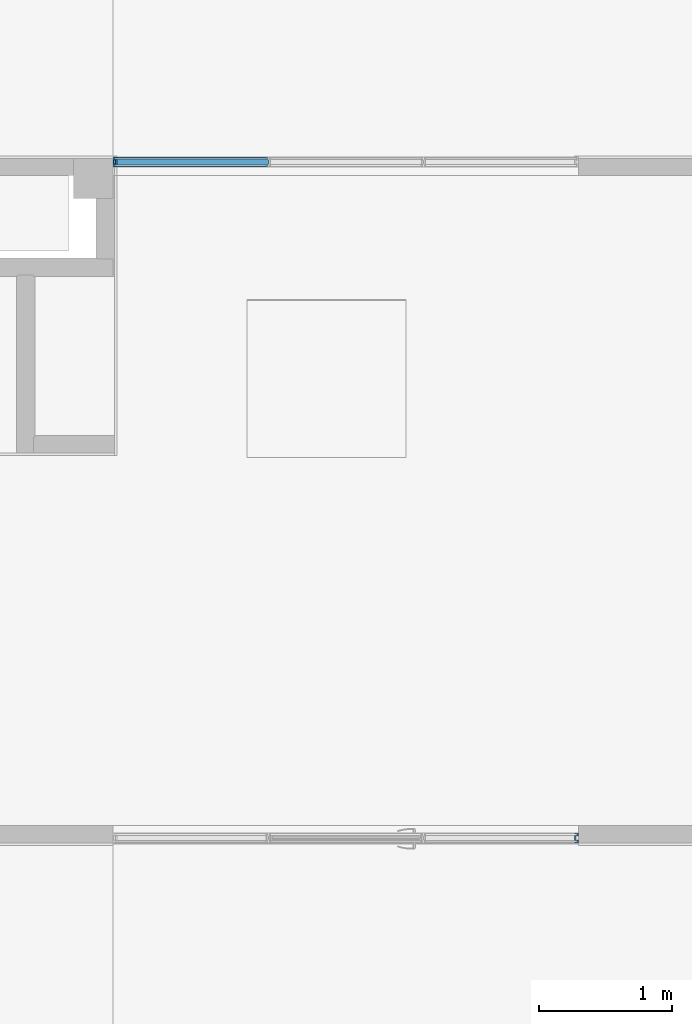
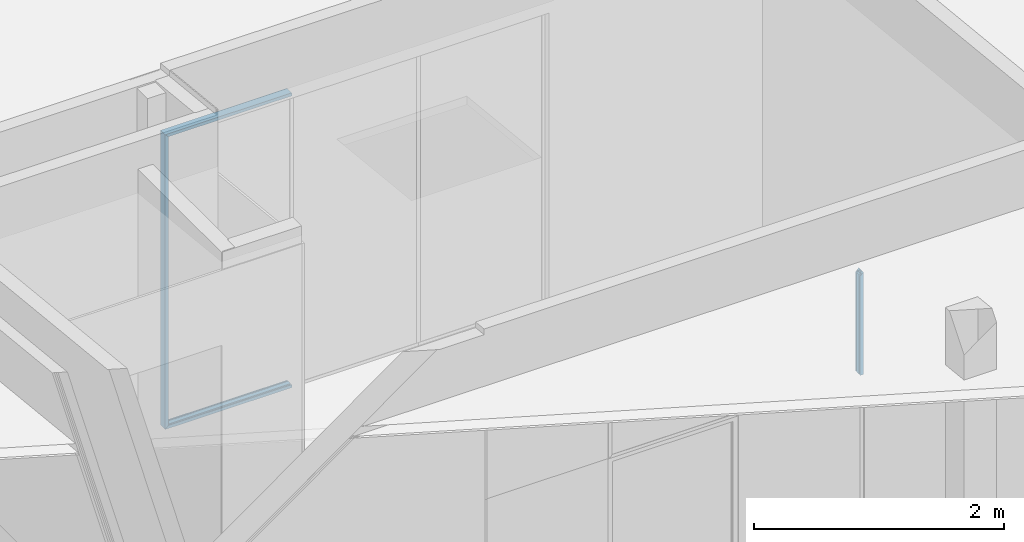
# One storey, part 16 of 43: 4 members, 2 elements without a shape of their own.
"""IFC2X3 building model written with IfcOpenShell, lengths in millimetres."""

from ifc_helpers import new_model, entity, si_unit, converted_unit, derived_unit, money_unit, direction, frame, origin_with_axes, place, context, subcontext, project, spatial, faceted_brep, material, material_list, type_object, element, aggregate, save


model = new_model("IFC2X3")

# Units and contexts
model_context = context("Model", 3, precision=0.01, world=origin_with_axes(), true_north=direction((0.0, 1.0)))
body_context = subcontext(model_context, "Body", "Model", "MODEL_VIEW")
ifc_project = project(units=[si_unit("LENGTHUNIT", "METRE", prefix="MILLI"), si_unit("AREAUNIT", "SQUARE_METRE"), si_unit("VOLUMEUNIT", "CUBIC_METRE"), converted_unit("PLANEANGLEUNIT", "DEGREE", entity("IfcPlaneAngleMeasure", 0.0174532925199), si_unit("PLANEANGLEUNIT", "RADIAN"), dimensions=[0, 0, 0, 0, 0, 0, 0]), si_unit("SOLIDANGLEUNIT", "STERADIAN"), money_unit("EUR"), converted_unit("TIMEUNIT", "Year", entity("IfcTimeMeasure", 31556926.0), si_unit("TIMEUNIT", "SECOND"), dimensions=[0, 0, 1, 0, 0, 0, 0]), si_unit("MASSUNIT", "GRAM", prefix="KILO"), si_unit("THERMODYNAMICTEMPERATUREUNIT", "DEGREE_CELSIUS"), si_unit("LUMINOUSINTENSITYUNIT", "LUMEN"), si_unit("ENERGYUNIT", "JOULE", prefix="MEGA"), derived_unit("THERMALCONDUCTANCEUNIT", [(si_unit("POWERUNIT", "WATT"), 1), (si_unit("LENGTHUNIT", "METRE"), -1), (si_unit("THERMODYNAMICTEMPERATUREUNIT", "KELVIN"), -1)]), derived_unit("SPECIFICHEATCAPACITYUNIT", [(si_unit("ENERGYUNIT", "JOULE"), 1), (si_unit("MASSUNIT", "GRAM", prefix="KILO"), -1), (si_unit("THERMODYNAMICTEMPERATUREUNIT", "KELVIN"), -1)]), derived_unit("MASSDENSITYUNIT", [(si_unit("MASSUNIT", "GRAM", prefix="KILO"), 1), (si_unit("VOLUMEUNIT", "CUBIC_METRE"), -1)])], contexts=[model_context])

# Site, building, storey
site_placement = place(None, origin_with_axes())
site = spatial("IfcSite", under=ifc_project, at=site_placement, Name="L.Koidula tn 11b", CompositionType="ELEMENT")
building_placement = place(site_placement, origin_with_axes())
building = spatial("IfcBuilding", under=site, at=building_placement, Name="Rakvere Riigigümnaasium", CompositionType="ELEMENT")
storey_placement = place(building_placement, frame((0.0, 0.0, 6665.0), z_axis=(0.0, 0.0, 1.0), x_axis=(1.0, 0.0, 0.0)))
storey = spatial("IfcBuildingStorey", under=building, at=storey_placement, Name="3.korrus +6,66", CompositionType="ELEMENT", Elevation=6665.0)

# Curtain wall, member
curtain_wall_type = type_object("IfcCurtainWallType", Name="Curtain Wall Type", PredefinedType="NOTDEFINED")
curtain_wall_1_placement = place(storey_placement, frame((58878.6347232, 19272.4397072, 0.0), z_axis=(0.0, 0.0, 1.0), x_axis=(1.0, 0.0, 0.0)))
curtain_wall_1 = element("IfcCurtainWall", 1, at=curtain_wall_1_placement, inside=storey, type_object=curtain_wall_type, Name="SKLF-29")
ifc_material_1 = material(Name="Klaasvill")
ifc_material_2 = material(Name="Teras RAL7012")
ifc_material_list = material_list([ifc_material_1, ifc_material_2])
member_type = type_object("IfcMemberType", Name="Boundary Frame 30 x 42", PredefinedType="MULLION")
member_1_placement = place(curtain_wall_1_placement, frame((2811.38617338, 0.0, 2400.0), z_axis=(-3.20375619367e-08, 0.0, 1.0), x_axis=(-1.0, 0.0, -3.20375619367e-08)))
member_1 = element("IfcMember", 2, at=member_1_placement, type_object=member_type, material=ifc_material_list, Name="SKLF-31-raam", ObjectType="MULLION", context=body_context, shape_type="Brep", body=[
    faceted_brep([(7.49999990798, 15.000000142, -4.4539469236e-07), (13.8499999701, 15.000000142, -4.4539469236e-07), (13.8499999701, 15.000000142, 986.150000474), (7.49999990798, 15.000000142, 992.500000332), (7.49999990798, 29.0161444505, -4.4539469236e-07), (13.8499999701, 29.0161444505, -4.4539469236e-07), (13.8499999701, 29.0161444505, 986.150000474), (7.49999990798, 29.0161444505, 992.500000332)], [[[0, 1, 2, 3]], [[0, 4, 5, 1]], [[1, 5, 6, 2]], [[3, 2, 6, 7]], [[4, 0, 3, 7]], [[5, 4, 7, 6]]]),
    faceted_brep([(24.987414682, 29.0161444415, -4.4539469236e-07), (25.004489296, 27.0307503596, -4.4539469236e-07), (25.004489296, 27.0307503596, 974.995511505), (24.987414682, 29.0161444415, 975.012586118), (28.5126239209, 29.0161444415, -4.4539469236e-07), (28.7655837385, 28.0385325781, -4.4539469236e-07), (28.4955493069, 27.0307503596, -4.4539469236e-07), (27.75780152, 26.2930025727, -4.4539469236e-07), (26.7500193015, 26.0229681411, -4.4539469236e-07), (25.742237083, 26.2930025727, -4.4539469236e-07), (25.742237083, 26.2930025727, 974.257763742), (26.7500193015, 26.0229681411, 973.249981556), (27.75780152, 26.2930025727, 972.242199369), (28.4955493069, 27.0307503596, 971.504451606), (28.7655837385, 28.0385325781, 971.234417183), (28.5126239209, 29.0161444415, 971.487376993)], [[[0, 1, 2, 3]], [[0, 4, 5, 6, 7, 8, 9, 1]], [[1, 9, 10, 2]], [[3, 2, 10, 11, 12, 13, 14, 15]], [[4, 0, 3, 15]], [[5, 4, 15, 14]], [[6, 5, 14, 13]], [[7, 6, 13, 12]], [[8, 7, 12, 11]], [[9, 8, 11, 10]]]),
    faceted_brep([(7.49999990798, -24.9999997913, -4.4539469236e-07), (7.49999990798, -39.0161445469, -4.4539469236e-07), (7.49999990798, -39.0161445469, 992.500000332), (7.49999990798, -24.9999997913, 992.500000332), (13.8499999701, -24.9999997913, -4.4539469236e-07), (13.8499999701, -39.0161445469, -4.4539469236e-07), (13.8499999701, -39.0161445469, 986.150000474), (13.8499999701, -24.9999997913, 986.150000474)], [[[0, 1, 2, 3]], [[0, 4, 5, 1]], [[1, 5, 6, 2]], [[3, 2, 6, 7]], [[4, 0, 3, 7]], [[5, 4, 7, 6]]]),
    faceted_brep([(25.004489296, -37.0307503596, -4.4539469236e-07), (24.987414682, -39.0161444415, -4.4539469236e-07), (24.987414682, -39.0161444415, 975.012586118), (25.004489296, -37.0307503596, 974.995511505), (25.742237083, -36.2930025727, -4.4539469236e-07), (26.7500193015, -36.0229681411, -4.4539469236e-07), (27.75780152, -36.2930025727, -4.4539469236e-07), (28.4955493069, -37.0307503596, -4.4539469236e-07), (28.7655837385, -38.0385325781, -4.4539469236e-07), (28.5126239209, -39.0161444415, -4.4539469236e-07), (28.5126239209, -39.0161444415, 971.487376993), (28.7655837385, -38.0385325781, 971.234417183), (28.4955493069, -37.0307503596, 971.504451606), (27.75780152, -36.2930025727, 972.242199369), (26.7500193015, -36.0229681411, 973.249981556), (25.742237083, -36.2930025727, 974.257763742)], [[[0, 1, 2, 3]], [[0, 4, 5, 6, 7, 8, 9, 1]], [[1, 9, 10, 2]], [[3, 2, 10, 11, 12, 13, 14, 15]], [[4, 0, 3, 15]], [[5, 4, 15, 14]], [[6, 5, 14, 13]], [[7, 6, 13, 12]], [[8, 7, 12, 11]], [[9, 8, 11, 10]]]),
    faceted_brep([(0.0, -22.0000000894, -4.4539469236e-07), (29.5999996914, -22.0000000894, -4.4539469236e-07), (29.5999996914, -22.0000000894, 970.400001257), (0.0, -22.0000000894, 1000.0), (0.0, 12.0000000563, -4.4539469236e-07), (29.5999996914, 12.0000000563, -4.4539469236e-07), (1.9999999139, 10.0000001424, -4.4539469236e-07), (1.9999999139, -20.0000001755, -4.4539469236e-07), (18.7999996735, -20.0000001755, -4.4539469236e-07), (18.7999996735, 10.0000001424, -4.4539469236e-07), (29.5999996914, 12.0000000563, 970.400001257), (0.0, 12.0000000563, 1000.0), (1.9999999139, 10.0000001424, 998.00000015), (18.7999996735, 10.0000001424, 981.200000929), (18.7999996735, -20.0000001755, 981.200000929), (1.9999999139, -20.0000001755, 998.00000015)], [[[0, 1, 2, 3]], [[0, 4, 5, 1], [6, 7, 8, 9]], [[1, 5, 10, 2]], [[3, 2, 10, 11], [12, 13, 14, 15]], [[4, 0, 3, 11]], [[5, 4, 11, 10]], [[7, 6, 12, 15]], [[8, 7, 15, 14]], [[9, 8, 14, 13]], [[6, 9, 13, 12]]]),
    faceted_brep([(0.0, 12.0, -4.4539469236e-07), (29.5999996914, 12.0000000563, -4.4539469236e-07), (29.5999996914, 12.0000000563, 970.400001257), (0.0, 12.0, 1000.0), (0.0, 32.0, -4.4539469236e-07), (30.0000193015, 32.0, -4.4539469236e-07), (30.0000193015, 29.0161444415, -4.4539469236e-07), (28.5126239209, 29.0161444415, -4.4539469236e-07), (24.987414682, 29.0161444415, -4.4539469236e-07), (13.8499999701, 29.0161444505, -4.4539469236e-07), (7.49999999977, 29.0161444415, -4.4539469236e-07), (7.49999999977, 15.0, -4.4539469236e-07), (13.8499999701, 15.000000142, -4.4539469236e-07), (30.0000193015, 15.0, -4.4539469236e-07), (30.0000193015, 12.0, -4.4539469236e-07), (30.0000193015, 12.0, 969.99998166), (30.0000193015, 15.0, 969.99998166), (13.8499999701, 15.000000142, 986.150000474), (7.49999999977, 15.0, 992.500000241), (7.49999999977, 29.0161444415, 992.500000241), (13.8499999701, 29.0161444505, 986.150000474), (24.987414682, 29.0161444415, 975.012586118), (28.5126239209, 29.0161444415, 971.487376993), (30.0000193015, 29.0161444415, 969.99998166), (30.0000193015, 32.0, 969.99998166), (0.0, 32.0, 1000.0)], [[[0, 1, 2, 3]], [[0, 4, 5, 6, 7, 8, 9, 10, 11, 12, 13, 14, 1]], [[1, 14, 15, 2]], [[3, 2, 15, 16, 17, 18, 19, 20, 21, 22, 23, 24, 25]], [[4, 0, 3, 25]], [[5, 4, 25, 24]], [[6, 5, 24, 23]], [[7, 6, 23, 22]], [[8, 7, 22, 21]], [[9, 8, 21, 20]], [[10, 9, 20, 19]], [[11, 10, 19, 18]], [[12, 11, 18, 17]], [[13, 12, 17, 16]], [[14, 13, 16, 15]]]),
    faceted_brep([(0.0, -22.0, -4.4539469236e-07), (0.0, -42.0, -4.4539469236e-07), (0.0, -42.0, 1000.0), (0.0, -22.0, 1000.0), (29.5999996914, -22.0000000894, -4.4539469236e-07), (30.0000193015, -22.0, -4.4539469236e-07), (30.0000193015, -25.0, -4.4539469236e-07), (13.8499999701, -24.9999997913, -4.4539469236e-07), (7.49999999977, -25.0, -4.4539469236e-07), (7.49999999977, -39.0161444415, -4.4539469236e-07), (13.8499999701, -39.0161445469, -4.4539469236e-07), (24.987414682, -39.0161444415, -4.4539469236e-07), (28.5126239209, -39.0161444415, -4.4539469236e-07), (30.0000193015, -39.0161444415, -4.4539469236e-07), (30.0000193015, -42.0, -4.4539469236e-07), (30.0000193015, -42.0, 969.99998166), (30.0000193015, -39.0161444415, 969.99998166), (28.5126239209, -39.0161444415, 971.487376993), (24.987414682, -39.0161444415, 975.012586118), (13.8499999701, -39.0161445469, 986.150000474), (7.49999999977, -39.0161444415, 992.500000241), (7.49999999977, -25.0, 992.500000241), (13.8499999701, -24.9999997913, 986.150000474), (30.0000193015, -25.0, 969.99998166), (30.0000193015, -22.0, 969.99998166), (29.5999996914, -22.0000000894, 970.400001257)], [[[0, 1, 2, 3]], [[0, 4, 5, 6, 7, 8, 9, 10, 11, 12, 13, 14, 1]], [[1, 14, 15, 2]], [[3, 2, 15, 16, 17, 18, 19, 20, 21, 22, 23, 24, 25]], [[4, 0, 3, 25]], [[5, 4, 25, 24]], [[6, 5, 24, 23]], [[7, 6, 23, 22]], [[8, 7, 22, 21]], [[9, 8, 21, 20]], [[10, 9, 20, 19]], [[11, 10, 19, 18]], [[12, 11, 18, 17]], [[13, 12, 17, 16]], [[14, 13, 16, 15]]]),
])
aggregate(curtain_wall_1, [member_1])

# Curtain wall, members
curtain_wall_2_placement = place(storey_placement, frame((61105.020931, 24378.4555472, 0.0), z_axis=(0.0, 0.0, 1.0), x_axis=(1.0, 0.0, 0.0)))
curtain_wall_2 = element("IfcCurtainWall", 3, at=curtain_wall_2_placement, inside=storey, type_object=curtain_wall_type, Name="SKLF-28")
member_2_placement = place(curtain_wall_2_placement, frame((-1755.0, 0.0, 0.0), z_axis=(-1.0, 0.0, 0.0), x_axis=(0.0, 0.0, 1.0)))
member_2 = element("IfcMember", 4, at=member_2_placement, type_object=member_type, material=ifc_material_list, Name="SKLF-74-raam", ObjectType="MULLION", context=body_context, shape_type="Brep", body=[
    faceted_brep([(7.49999990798, 15.000000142, 0.0), (13.8499999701, 15.000000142, 0.0), (13.8499999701, 15.000000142, 1156.15000003), (7.49999990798, 15.000000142, 1162.50000009), (7.49999990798, 29.0161444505, 0.0), (13.8499999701, 29.0161444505, 0.0), (13.8499999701, 29.0161444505, 1156.15000003), (7.49999990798, 29.0161444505, 1162.50000009)], [[[0, 1, 2, 3]], [[0, 4, 5, 1]], [[1, 5, 6, 2]], [[3, 2, 6, 7]], [[4, 0, 3, 7]], [[5, 4, 7, 6]]]),
    faceted_brep([(24.987414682, 29.0161444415, 0.0), (25.004489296, 27.0307503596, 0.0), (25.004489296, 27.0307503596, 1144.9955107), (24.987414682, 29.0161444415, 1145.01258532), (28.5126239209, 29.0161444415, 0.0), (28.7655837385, 28.0385325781, 0.0), (28.4955493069, 27.0307503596, 0.0), (27.75780152, 26.2930025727, 0.0), (26.7500193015, 26.0229681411, 0.0), (25.742237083, 26.2930025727, 0.0), (25.742237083, 26.2930025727, 1144.25776292), (26.7500193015, 26.0229681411, 1143.2499807), (27.75780152, 26.2930025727, 1142.24219848), (28.4955493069, 27.0307503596, 1141.50445069), (28.7655837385, 28.0385325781, 1141.23441626), (28.5126239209, 29.0161444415, 1141.48737608)], [[[0, 1, 2, 3]], [[0, 4, 5, 6, 7, 8, 9, 1]], [[1, 9, 10, 2]], [[3, 2, 10, 11, 12, 13, 14, 15]], [[4, 0, 3, 15]], [[5, 4, 15, 14]], [[6, 5, 14, 13]], [[7, 6, 13, 12]], [[8, 7, 12, 11]], [[9, 8, 11, 10]]]),
    faceted_brep([(7.49999990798, -24.9999997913, 0.0), (7.49999990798, -39.0161445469, 0.0), (7.49999990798, -39.0161445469, 1162.50000009), (7.49999990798, -24.9999997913, 1162.50000009), (13.8499999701, -24.9999997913, 0.0), (13.8499999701, -39.0161445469, 0.0), (13.8499999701, -39.0161445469, 1156.15000003), (13.8499999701, -24.9999997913, 1156.15000003)], [[[0, 1, 2, 3]], [[0, 4, 5, 1]], [[1, 5, 6, 2]], [[3, 2, 6, 7]], [[4, 0, 3, 7]], [[5, 4, 7, 6]]]),
    faceted_brep([(25.004489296, -37.0307503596, 0.0), (24.987414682, -39.0161444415, 0.0), (24.987414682, -39.0161444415, 1145.01258532), (25.004489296, -37.0307503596, 1144.9955107), (25.742237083, -36.2930025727, 0.0), (26.7500193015, -36.0229681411, 0.0), (27.75780152, -36.2930025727, 0.0), (28.4955493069, -37.0307503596, 0.0), (28.7655837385, -38.0385325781, 0.0), (28.5126239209, -39.0161444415, 0.0), (28.5126239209, -39.0161444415, 1141.48737608), (28.7655837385, -38.0385325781, 1141.23441626), (28.4955493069, -37.0307503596, 1141.50445069), (27.75780152, -36.2930025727, 1142.24219848), (26.7500193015, -36.0229681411, 1143.2499807), (25.742237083, -36.2930025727, 1144.25776292)], [[[0, 1, 2, 3]], [[0, 4, 5, 6, 7, 8, 9, 1]], [[1, 9, 10, 2]], [[3, 2, 10, 11, 12, 13, 14, 15]], [[4, 0, 3, 15]], [[5, 4, 15, 14]], [[6, 5, 14, 13]], [[7, 6, 13, 12]], [[8, 7, 12, 11]], [[9, 8, 11, 10]]]),
    faceted_brep([(0.0, -22.0000000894, 0.0), (29.5999996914, -22.0000000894, 0.0), (29.5999996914, -22.0000000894, 1140.40000031), (0.0, -22.0000000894, 1170.0), (0.0, 12.0000000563, 0.0), (29.5999996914, 12.0000000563, 0.0), (1.9999999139, 10.0000001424, 0.0), (1.9999999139, -20.0000001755, 0.0), (18.7999996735, -20.0000001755, 0.0), (18.7999996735, 10.0000001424, 0.0), (29.5999996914, 12.0000000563, 1140.40000031), (0.0, 12.0000000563, 1170.0), (1.9999999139, 10.0000001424, 1168.00000009), (18.7999996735, 10.0000001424, 1151.20000033), (18.7999996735, -20.0000001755, 1151.20000033), (1.9999999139, -20.0000001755, 1168.00000009)], [[[0, 1, 2, 3]], [[0, 4, 5, 1], [6, 7, 8, 9]], [[1, 5, 10, 2]], [[3, 2, 10, 11], [12, 13, 14, 15]], [[4, 0, 3, 11]], [[5, 4, 11, 10]], [[7, 6, 12, 15]], [[8, 7, 15, 14]], [[9, 8, 14, 13]], [[6, 9, 13, 12]]]),
    faceted_brep([(0.0, 12.0, 0.0), (29.5999996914, 12.0000000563, 0.0), (29.5999996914, 12.0000000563, 1140.40000031), (0.0, 12.0, 1170.0), (0.0, 32.0, 0.0), (30.0000193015, 32.0, 0.0), (30.0000193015, 29.0161444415, 0.0), (28.5126239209, 29.0161444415, 0.0), (24.987414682, 29.0161444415, 0.0), (13.8499999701, 29.0161444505, 0.0), (7.49999999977, 29.0161444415, 0.0), (7.49999999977, 15.0, 0.0), (13.8499999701, 15.000000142, 0.0), (30.0000193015, 15.0, 0.0), (30.0000193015, 12.0, 0.0), (30.0000193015, 12.0, 1139.9999807), (30.0000193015, 15.0, 1139.9999807), (13.8499999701, 15.000000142, 1156.15000003), (7.49999999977, 15.0, 1162.5), (7.49999999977, 29.0161444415, 1162.5), (13.8499999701, 29.0161444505, 1156.15000003), (24.987414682, 29.0161444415, 1145.01258532), (28.5126239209, 29.0161444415, 1141.48737608), (30.0000193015, 29.0161444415, 1139.9999807), (30.0000193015, 32.0, 1139.9999807), (0.0, 32.0, 1170.0)], [[[0, 1, 2, 3]], [[0, 4, 5, 6, 7, 8, 9, 10, 11, 12, 13, 14, 1]], [[1, 14, 15, 2]], [[3, 2, 15, 16, 17, 18, 19, 20, 21, 22, 23, 24, 25]], [[4, 0, 3, 25]], [[5, 4, 25, 24]], [[6, 5, 24, 23]], [[7, 6, 23, 22]], [[8, 7, 22, 21]], [[9, 8, 21, 20]], [[10, 9, 20, 19]], [[11, 10, 19, 18]], [[12, 11, 18, 17]], [[13, 12, 17, 16]], [[14, 13, 16, 15]]]),
    faceted_brep([(0.0, -22.0, 0.0), (0.0, -42.0, 0.0), (0.0, -42.0, 1170.0), (0.0, -22.0, 1170.0), (29.5999996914, -22.0000000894, 0.0), (30.0000193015, -22.0, 0.0), (30.0000193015, -25.0, 0.0), (13.8499999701, -24.9999997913, 0.0), (7.49999999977, -25.0, 0.0), (7.49999999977, -39.0161444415, 0.0), (13.8499999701, -39.0161445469, 0.0), (24.987414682, -39.0161444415, 0.0), (28.5126239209, -39.0161444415, 0.0), (30.0000193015, -39.0161444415, 0.0), (30.0000193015, -42.0, 0.0), (30.0000193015, -42.0, 1139.9999807), (30.0000193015, -39.0161444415, 1139.9999807), (28.5126239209, -39.0161444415, 1141.48737608), (24.987414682, -39.0161444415, 1145.01258532), (13.8499999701, -39.0161445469, 1156.15000003), (7.49999999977, -39.0161444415, 1162.5), (7.49999999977, -25.0, 1162.5), (13.8499999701, -24.9999997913, 1156.15000003), (30.0000193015, -25.0, 1139.9999807), (30.0000193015, -22.0, 1139.9999807), (29.5999996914, -22.0000000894, 1140.40000031)], [[[0, 1, 2, 3]], [[0, 4, 5, 6, 7, 8, 9, 10, 11, 12, 13, 14, 1]], [[1, 14, 15, 2]], [[3, 2, 15, 16, 17, 18, 19, 20, 21, 22, 23, 24, 25]], [[4, 0, 3, 25]], [[5, 4, 25, 24]], [[6, 5, 24, 23]], [[7, 6, 23, 22]], [[8, 7, 22, 21]], [[9, 8, 21, 20]], [[10, 9, 20, 19]], [[11, 10, 19, 18]], [[12, 11, 18, 17]], [[13, 12, 17, 16]], [[14, 13, 16, 15]]]),
])
member_3_placement = place(curtain_wall_2_placement, frame((-2925.0, 0.0, 0.0), z_axis=(0.0, 0.0, 1.0), x_axis=(1.0, 0.0, 0.0)))
member_3 = element("IfcMember", 5, at=member_3_placement, type_object=member_type, material=ifc_material_list, Name="SKLF-75-raam", ObjectType="MULLION", context=body_context, shape_type="Brep", body=[
    faceted_brep([(13.8499999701, 15.000000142, 13.8499999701), (13.8499999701, 15.000000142, 2866.1500121), (7.49999990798, 15.000000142, 2872.50001216), (7.49999990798, 15.000000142, 7.49999990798), (13.8499999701, 29.0161444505, 13.8499999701), (13.8499999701, 29.0161444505, 2866.1500121), (7.49999990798, 29.0161444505, 2872.50001216), (7.49999990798, 29.0161444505, 7.49999990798)], [[[0, 1, 2, 3]], [[4, 5, 1, 0]], [[2, 1, 5, 6]], [[3, 2, 6, 7]], [[3, 7, 4, 0]], [[7, 6, 5, 4]]]),
    faceted_brep([(25.004489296, 27.0307503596, 25.004489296), (25.004489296, 27.0307503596, 2854.99552277), (24.987414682, 29.0161444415, 2855.01259739), (24.987414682, 29.0161444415, 24.987414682), (25.742237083, 26.2930025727, 25.742237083), (25.742237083, 26.2930025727, 2854.25777499), (26.7500193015, 26.0229681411, 2853.24999277), (27.75780152, 26.2930025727, 2852.24221055), (28.4955493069, 27.0307503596, 2851.50446276), (28.7655837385, 28.0385325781, 2851.23442833), (28.5126239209, 29.0161444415, 2851.48738815), (28.5126239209, 29.0161444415, 28.5126239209), (28.7655837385, 28.0385325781, 28.7655837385), (28.4955493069, 27.0307503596, 28.4955493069), (27.75780152, 26.2930025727, 27.75780152), (26.7500193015, 26.0229681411, 26.7500193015)], [[[0, 1, 2, 3]], [[4, 5, 1, 0]], [[2, 1, 5, 6, 7, 8, 9, 10]], [[3, 2, 10, 11]], [[3, 11, 12, 13, 14, 15, 4, 0]], [[15, 6, 5, 4]], [[14, 7, 6, 15]], [[13, 8, 7, 14]], [[12, 9, 8, 13]], [[11, 10, 9, 12]]]),
    faceted_brep([(7.49999990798, -39.0161445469, 7.49999990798), (7.49999990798, -39.0161445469, 2872.50001216), (7.49999990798, -24.9999997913, 2872.50001216), (7.49999990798, -24.9999997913, 7.49999990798), (13.8499999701, -39.0161445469, 13.8499999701), (13.8499999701, -39.0161445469, 2866.1500121), (13.8499999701, -24.9999997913, 2866.1500121), (13.8499999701, -24.9999997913, 13.8499999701)], [[[0, 1, 2, 3]], [[4, 5, 1, 0]], [[2, 1, 5, 6]], [[3, 2, 6, 7]], [[3, 7, 4, 0]], [[7, 6, 5, 4]]]),
    faceted_brep([(24.987414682, -39.0161444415, 24.987414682), (24.987414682, -39.0161444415, 2855.01259739), (25.004489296, -37.0307503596, 2854.99552277), (25.004489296, -37.0307503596, 25.004489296), (28.5126239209, -39.0161444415, 28.5126239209), (28.5126239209, -39.0161444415, 2851.48738815), (28.7655837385, -38.0385325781, 2851.23442833), (28.4955493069, -37.0307503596, 2851.50446276), (27.75780152, -36.2930025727, 2852.24221055), (26.7500193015, -36.0229681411, 2853.24999277), (25.742237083, -36.2930025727, 2854.25777499), (25.742237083, -36.2930025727, 25.742237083), (26.7500193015, -36.0229681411, 26.7500193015), (27.75780152, -36.2930025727, 27.75780152), (28.4955493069, -37.0307503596, 28.4955493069), (28.7655837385, -38.0385325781, 28.7655837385)], [[[0, 1, 2, 3]], [[4, 5, 1, 0]], [[2, 1, 5, 6, 7, 8, 9, 10]], [[3, 2, 10, 11]], [[3, 11, 12, 13, 14, 15, 4, 0]], [[15, 6, 5, 4]], [[14, 7, 6, 15]], [[13, 8, 7, 14]], [[12, 9, 8, 13]], [[11, 10, 9, 12]]]),
    faceted_brep([(29.5999996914, -22.0000000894, 29.5999996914), (29.5999996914, -22.0000000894, 2850.40001238), (0.0, -22.0000000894, 2880.00001207), (0.0, -22.0000000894, 0.0), (29.5999996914, 12.0000000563, 29.5999996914), (29.5999996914, 12.0000000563, 2850.40001238), (0.0, 12.0000000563, 2880.00001207), (1.9999999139, 10.0000001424, 2878.00001216), (18.7999996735, 10.0000001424, 2861.2000124), (18.7999996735, -20.0000001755, 2861.2000124), (1.9999999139, -20.0000001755, 2878.00001216), (0.0, 12.0000000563, 0.0), (1.9999999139, 10.0000001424, 1.9999999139), (1.9999999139, -20.0000001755, 1.9999999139), (18.7999996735, -20.0000001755, 18.7999996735), (18.7999996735, 10.0000001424, 18.7999996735)], [[[0, 1, 2, 3]], [[4, 5, 1, 0]], [[2, 1, 5, 6], [7, 8, 9, 10]], [[3, 2, 6, 11]], [[3, 11, 4, 0], [12, 13, 14, 15]], [[11, 6, 5, 4]], [[15, 8, 7, 12]], [[14, 9, 8, 15]], [[13, 10, 9, 14]], [[12, 7, 10, 13]]]),
    faceted_brep([(29.5999996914, 12.0000000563, 29.5999996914), (29.5999996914, 12.0000000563, 2850.40001238), (0.0, 12.0, 2880.00001207), (0.0, 12.0, 0.0), (30.0000193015, 12.0, 30.0000193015), (30.0000193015, 12.0, 2849.99999277), (30.0000193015, 15.0, 2849.99999277), (13.8499999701, 15.000000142, 2866.1500121), (7.49999999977, 15.0, 2872.50001207), (7.49999999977, 29.0161444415, 2872.50001207), (13.8499999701, 29.0161444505, 2866.1500121), (24.987414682, 29.0161444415, 2855.01259739), (28.5126239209, 29.0161444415, 2851.48738815), (30.0000193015, 29.0161444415, 2849.99999277), (30.0000193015, 32.0, 2849.99999277), (0.0, 32.0, 2880.00001207), (0.0, 32.0, 0.0), (30.0000193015, 32.0, 30.0000193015), (30.0000193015, 29.0161444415, 30.0000193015), (28.5126239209, 29.0161444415, 28.5126239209), (24.987414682, 29.0161444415, 24.987414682), (13.8499999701, 29.0161444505, 13.8499999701), (7.49999999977, 29.0161444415, 7.49999999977), (7.49999999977, 15.0, 7.49999999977), (13.8499999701, 15.000000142, 13.8499999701), (30.0000193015, 15.0, 30.0000193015)], [[[0, 1, 2, 3]], [[4, 5, 1, 0]], [[2, 1, 5, 6, 7, 8, 9, 10, 11, 12, 13, 14, 15]], [[3, 2, 15, 16]], [[3, 16, 17, 18, 19, 20, 21, 22, 23, 24, 25, 4, 0]], [[25, 6, 5, 4]], [[24, 7, 6, 25]], [[23, 8, 7, 24]], [[22, 9, 8, 23]], [[21, 10, 9, 22]], [[20, 11, 10, 21]], [[19, 12, 11, 20]], [[18, 13, 12, 19]], [[17, 14, 13, 18]], [[16, 15, 14, 17]]]),
    faceted_brep([(0.0, -42.0, 0.0), (0.0, -42.0, 2880.00001207), (0.0, -22.0, 2880.00001207), (0.0, -22.0, 0.0), (30.0000193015, -42.0, 30.0000193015), (30.0000193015, -42.0, 2849.99999277), (30.0000193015, -39.0161444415, 2849.99999277), (28.5126239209, -39.0161444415, 2851.48738815), (24.987414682, -39.0161444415, 2855.01259739), (13.8499999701, -39.0161445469, 2866.1500121), (7.49999999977, -39.0161444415, 2872.50001207), (7.49999999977, -25.0, 2872.50001207), (13.8499999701, -24.9999997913, 2866.1500121), (30.0000193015, -25.0, 2849.99999277), (30.0000193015, -22.0, 2849.99999277), (29.5999996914, -22.0000000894, 2850.40001238), (29.5999996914, -22.0000000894, 29.5999996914), (30.0000193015, -22.0, 30.0000193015), (30.0000193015, -25.0, 30.0000193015), (13.8499999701, -24.9999997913, 13.8499999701), (7.49999999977, -25.0, 7.49999999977), (7.49999999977, -39.0161444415, 7.49999999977), (13.8499999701, -39.0161445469, 13.8499999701), (24.987414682, -39.0161444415, 24.987414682), (28.5126239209, -39.0161444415, 28.5126239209), (30.0000193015, -39.0161444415, 30.0000193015)], [[[0, 1, 2, 3]], [[4, 5, 1, 0]], [[2, 1, 5, 6, 7, 8, 9, 10, 11, 12, 13, 14, 15]], [[3, 2, 15, 16]], [[3, 16, 17, 18, 19, 20, 21, 22, 23, 24, 25, 4, 0]], [[25, 6, 5, 4]], [[24, 7, 6, 25]], [[23, 8, 7, 24]], [[22, 9, 8, 23]], [[21, 10, 9, 22]], [[20, 11, 10, 21]], [[19, 12, 11, 20]], [[18, 13, 12, 19]], [[17, 14, 13, 18]], [[16, 15, 14, 17]]]),
])
member_4_placement = place(curtain_wall_2_placement, frame((-1755.0, 0.0, 2880.00001207), z_axis=(-1.0, 0.0, 0.0), x_axis=(0.0, 0.0, 1.0)))
member_4 = element("IfcMember", 6, at=member_4_placement, type_object=member_type, material=ifc_material_list, Name="SKLF-76-raam", ObjectType="MULLION", context=body_context, shape_type="Brep", body=[
    faceted_brep([(-7.49999990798, 15.000000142, 0.0), (-7.49999990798, 15.000000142, 1162.50000009), (-13.8499999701, 15.000000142, 1156.15000003), (-13.8499999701, 15.000000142, 0.0), (-7.49999990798, 29.0161444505, 0.0), (-7.49999990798, 29.0161444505, 1162.50000009), (-13.8499999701, 29.0161444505, 1156.15000003), (-13.8499999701, 29.0161444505, 0.0)], [[[0, 1, 2, 3]], [[4, 5, 1, 0]], [[1, 5, 6, 2]], [[3, 2, 6, 7]], [[0, 3, 7, 4]], [[7, 6, 5, 4]]]),
    faceted_brep([(-24.987414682, 29.0161444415, 0.0), (-24.987414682, 29.0161444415, 1145.01258532), (-25.004489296, 27.0307503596, 1144.9955107), (-25.004489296, 27.0307503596, 0.0), (-28.5126239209, 29.0161444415, 0.0), (-28.5126239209, 29.0161444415, 1141.48737608), (-28.7655837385, 28.0385325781, 1141.23441626), (-28.4955493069, 27.0307503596, 1141.50445069), (-27.75780152, 26.2930025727, 1142.24219848), (-26.7500193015, 26.0229681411, 1143.2499807), (-25.742237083, 26.2930025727, 1144.25776292), (-25.742237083, 26.2930025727, 0.0), (-26.7500193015, 26.0229681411, 0.0), (-27.75780152, 26.2930025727, 0.0), (-28.4955493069, 27.0307503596, 0.0), (-28.7655837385, 28.0385325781, 0.0)], [[[0, 1, 2, 3]], [[4, 5, 1, 0]], [[1, 5, 6, 7, 8, 9, 10, 2]], [[3, 2, 10, 11]], [[0, 3, 11, 12, 13, 14, 15, 4]], [[15, 6, 5, 4]], [[14, 7, 6, 15]], [[13, 8, 7, 14]], [[12, 9, 8, 13]], [[11, 10, 9, 12]]]),
    faceted_brep([(-7.49999990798, -24.9999997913, 0.0), (-7.49999990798, -24.9999997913, 1162.50000009), (-7.49999990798, -39.0161445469, 1162.50000009), (-7.49999990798, -39.0161445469, 0.0), (-13.8499999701, -24.9999997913, 0.0), (-13.8499999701, -24.9999997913, 1156.15000003), (-13.8499999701, -39.0161445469, 1156.15000003), (-13.8499999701, -39.0161445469, 0.0)], [[[0, 1, 2, 3]], [[4, 5, 1, 0]], [[1, 5, 6, 2]], [[3, 2, 6, 7]], [[0, 3, 7, 4]], [[7, 6, 5, 4]]]),
    faceted_brep([(-25.004489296, -37.0307503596, 0.0), (-25.004489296, -37.0307503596, 1144.9955107), (-24.987414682, -39.0161444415, 1145.01258532), (-24.987414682, -39.0161444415, 0.0), (-25.742237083, -36.2930025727, 0.0), (-25.742237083, -36.2930025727, 1144.25776292), (-26.7500193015, -36.0229681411, 1143.2499807), (-27.75780152, -36.2930025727, 1142.24219848), (-28.4955493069, -37.0307503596, 1141.50445069), (-28.7655837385, -38.0385325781, 1141.23441626), (-28.5126239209, -39.0161444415, 1141.48737608), (-28.5126239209, -39.0161444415, 0.0), (-28.7655837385, -38.0385325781, 0.0), (-28.4955493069, -37.0307503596, 0.0), (-27.75780152, -36.2930025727, 0.0), (-26.7500193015, -36.0229681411, 0.0)], [[[0, 1, 2, 3]], [[4, 5, 1, 0]], [[1, 5, 6, 7, 8, 9, 10, 2]], [[3, 2, 10, 11]], [[0, 3, 11, 12, 13, 14, 15, 4]], [[15, 6, 5, 4]], [[14, 7, 6, 15]], [[13, 8, 7, 14]], [[12, 9, 8, 13]], [[11, 10, 9, 12]]]),
    faceted_brep([(0.0, -22.0000000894, 0.0), (0.0, -22.0000000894, 1170.0), (-29.5999996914, -22.0000000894, 1140.40000031), (-29.5999996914, -22.0000000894, 0.0), (0.0, 12.0000000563, 0.0), (0.0, 12.0000000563, 1170.0), (-29.5999996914, 12.0000000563, 1140.40000031), (-1.9999999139, 10.0000001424, 1168.00000009), (-1.9999999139, -20.0000001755, 1168.00000009), (-18.7999996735, -20.0000001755, 1151.20000033), (-18.7999996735, 10.0000001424, 1151.20000033), (-29.5999996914, 12.0000000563, 0.0), (-1.9999999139, 10.0000001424, 0.0), (-18.7999996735, 10.0000001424, 0.0), (-18.7999996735, -20.0000001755, 0.0), (-1.9999999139, -20.0000001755, 0.0)], [[[0, 1, 2, 3]], [[4, 5, 1, 0]], [[1, 5, 6, 2], [7, 8, 9, 10]], [[3, 2, 6, 11]], [[0, 3, 11, 4], [12, 13, 14, 15]], [[11, 6, 5, 4]], [[15, 8, 7, 12]], [[14, 9, 8, 15]], [[13, 10, 9, 14]], [[12, 7, 10, 13]]]),
    faceted_brep([(0.0, 12.0, 0.0), (0.0, 12.0, 1170.0), (-29.5999996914, 12.0000000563, 1140.40000031), (-29.5999996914, 12.0000000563, 0.0), (0.0, 32.0, 0.0), (0.0, 32.0, 1170.0), (-30.0000193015, 32.0, 1139.9999807), (-30.0000193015, 29.0161444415, 1139.9999807), (-28.5126239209, 29.0161444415, 1141.48737608), (-24.987414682, 29.0161444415, 1145.01258532), (-13.8499999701, 29.0161444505, 1156.15000003), (-7.49999999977, 29.0161444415, 1162.5), (-7.49999999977, 15.0, 1162.5), (-13.8499999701, 15.000000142, 1156.15000003), (-30.0000193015, 15.0, 1139.9999807), (-30.0000193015, 12.0, 1139.9999807), (-30.0000193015, 12.0, 0.0), (-30.0000193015, 15.0, 0.0), (-13.8499999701, 15.000000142, 0.0), (-7.49999999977, 15.0, 0.0), (-7.49999999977, 29.0161444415, 0.0), (-13.8499999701, 29.0161444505, 0.0), (-24.987414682, 29.0161444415, 0.0), (-28.5126239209, 29.0161444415, 0.0), (-30.0000193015, 29.0161444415, 0.0), (-30.0000193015, 32.0, 0.0)], [[[0, 1, 2, 3]], [[4, 5, 1, 0]], [[1, 5, 6, 7, 8, 9, 10, 11, 12, 13, 14, 15, 2]], [[3, 2, 15, 16]], [[0, 3, 16, 17, 18, 19, 20, 21, 22, 23, 24, 25, 4]], [[25, 6, 5, 4]], [[24, 7, 6, 25]], [[23, 8, 7, 24]], [[22, 9, 8, 23]], [[21, 10, 9, 22]], [[20, 11, 10, 21]], [[19, 12, 11, 20]], [[18, 13, 12, 19]], [[17, 14, 13, 18]], [[16, 15, 14, 17]]]),
    faceted_brep([(0.0, -22.0, 0.0), (0.0, -22.0, 1170.0), (0.0, -42.0, 1170.0), (0.0, -42.0, 0.0), (-29.5999996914, -22.0000000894, 0.0), (-29.5999996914, -22.0000000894, 1140.40000031), (-30.0000193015, -22.0, 1139.9999807), (-30.0000193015, -25.0, 1139.9999807), (-13.8499999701, -24.9999997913, 1156.15000003), (-7.49999999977, -25.0, 1162.5), (-7.49999999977, -39.0161444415, 1162.5), (-13.8499999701, -39.0161445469, 1156.15000003), (-24.987414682, -39.0161444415, 1145.01258532), (-28.5126239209, -39.0161444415, 1141.48737608), (-30.0000193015, -39.0161444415, 1139.9999807), (-30.0000193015, -42.0, 1139.9999807), (-30.0000193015, -42.0, 0.0), (-30.0000193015, -39.0161444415, 0.0), (-28.5126239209, -39.0161444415, 0.0), (-24.987414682, -39.0161444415, 0.0), (-13.8499999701, -39.0161445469, 0.0), (-7.49999999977, -39.0161444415, 0.0), (-7.49999999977, -25.0, 0.0), (-13.8499999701, -24.9999997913, 0.0), (-30.0000193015, -25.0, 0.0), (-30.0000193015, -22.0, 0.0)], [[[0, 1, 2, 3]], [[4, 5, 1, 0]], [[1, 5, 6, 7, 8, 9, 10, 11, 12, 13, 14, 15, 2]], [[3, 2, 15, 16]], [[0, 3, 16, 17, 18, 19, 20, 21, 22, 23, 24, 25, 4]], [[25, 6, 5, 4]], [[24, 7, 6, 25]], [[23, 8, 7, 24]], [[22, 9, 8, 23]], [[21, 10, 9, 22]], [[20, 11, 10, 21]], [[19, 12, 11, 20]], [[18, 13, 12, 19]], [[17, 14, 13, 18]], [[16, 15, 14, 17]]]),
])
aggregate(curtain_wall_2, [member_2, member_3, member_4])

save(model, "model.ifc")
